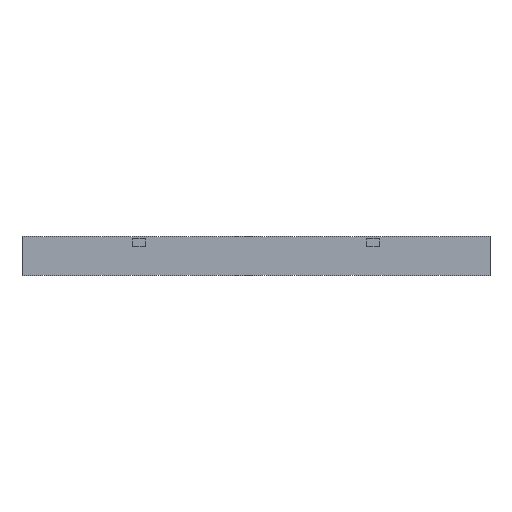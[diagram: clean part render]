
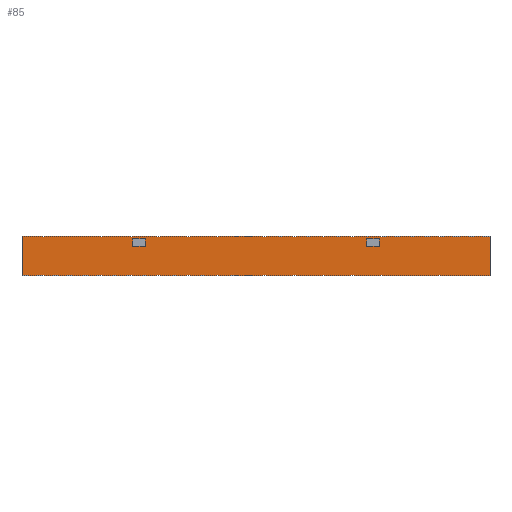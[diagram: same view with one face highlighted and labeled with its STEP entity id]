
A CAD part, left-side view. The second image highlights one B-rep face of the part: STEP entity #85.
In plain terms, the highlighted planar face has unit normal (-1, 0, 0).
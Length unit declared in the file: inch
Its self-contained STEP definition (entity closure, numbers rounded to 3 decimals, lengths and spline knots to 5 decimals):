
#16=FACE_BOUND('',#320,.T.);
#17=FACE_BOUND('',#321,.T.);
#85=ADVANCED_FACE('',(#201,#16,#17),#1921,.T.);
#201=FACE_OUTER_BOUND('',#319,.T.);
#319=EDGE_LOOP('',(#590,#591,#592,#593));
#320=EDGE_LOOP('',(#594,#595,#596,#597));
#321=EDGE_LOOP('',(#598,#599,#600,#601));
#590=ORIENTED_EDGE('',*,*,#1166,.T.);
#591=ORIENTED_EDGE('',*,*,#1167,.T.);
#592=ORIENTED_EDGE('',*,*,#1168,.T.);
#593=ORIENTED_EDGE('',*,*,#1169,.T.);
#594=ORIENTED_EDGE('',*,*,#1124,.F.);
#595=ORIENTED_EDGE('',*,*,#1146,.F.);
#596=ORIENTED_EDGE('',*,*,#1103,.F.);
#597=ORIENTED_EDGE('',*,*,#1078,.F.);
#598=ORIENTED_EDGE('',*,*,#1173,.T.);
#599=ORIENTED_EDGE('',*,*,#1170,.T.);
#600=ORIENTED_EDGE('',*,*,#1171,.T.);
#601=ORIENTED_EDGE('',*,*,#1172,.T.);
#1078=EDGE_CURVE('',#1702,#1703,#1390,.T.);
#1103=EDGE_CURVE('',#1703,#1720,#1415,.T.);
#1124=EDGE_CURVE('',#1734,#1702,#1436,.T.);
#1146=EDGE_CURVE('',#1720,#1734,#1458,.T.);
#1166=EDGE_CURVE('',#1754,#1755,#1478,.T.);
#1167=EDGE_CURVE('',#1755,#1756,#1479,.T.);
#1168=EDGE_CURVE('',#1756,#1757,#1480,.T.);
#1169=EDGE_CURVE('',#1757,#1754,#1481,.T.);
#1170=EDGE_CURVE('',#1758,#1759,#1482,.T.);
#1171=EDGE_CURVE('',#1759,#1760,#1483,.T.);
#1172=EDGE_CURVE('',#1760,#1761,#1484,.T.);
#1173=EDGE_CURVE('',#1761,#1758,#1485,.T.);
#1390=B_SPLINE_CURVE_WITH_KNOTS('',1,(#2707,#2708),.UNSPECIFIED.,.F.,.F.,
(2,2),(0.,1.25),.UNSPECIFIED.);
#1415=B_SPLINE_CURVE_WITH_KNOTS('',1,(#2757,#2758),.UNSPECIFIED.,.F.,.F.,
(2,2),(0.,0.75),.UNSPECIFIED.);
#1436=B_SPLINE_CURVE_WITH_KNOTS('',1,(#2799,#2800),.UNSPECIFIED.,.F.,.F.,
(2,2),(0.,0.75),.UNSPECIFIED.);
#1458=B_SPLINE_CURVE_WITH_KNOTS('',1,(#2843,#2844),.UNSPECIFIED.,.F.,.F.,
(2,2),(0.,1.25),.UNSPECIFIED.);
#1478=B_SPLINE_CURVE_WITH_KNOTS('',1,(#2883,#2884),.UNSPECIFIED.,.F.,.F.,
(2,2),(0.,48.),.UNSPECIFIED.);
#1479=B_SPLINE_CURVE_WITH_KNOTS('',1,(#2885,#2886),.UNSPECIFIED.,.F.,.F.,
(2,2),(0.,4.),.UNSPECIFIED.);
#1480=B_SPLINE_CURVE_WITH_KNOTS('',1,(#2887,#2888),.UNSPECIFIED.,.F.,.F.,
(2,2),(0.,48.),.UNSPECIFIED.);
#1481=B_SPLINE_CURVE_WITH_KNOTS('',1,(#2889,#2890),.UNSPECIFIED.,.F.,.F.,
(2,2),(0.,4.),.UNSPECIFIED.);
#1482=B_SPLINE_CURVE_WITH_KNOTS('',1,(#2891,#2892),.UNSPECIFIED.,.F.,.F.,
(2,2),(0.,1.25),.UNSPECIFIED.);
#1483=B_SPLINE_CURVE_WITH_KNOTS('',1,(#2893,#2894),.UNSPECIFIED.,.F.,.F.,
(2,2),(0.,0.75),.UNSPECIFIED.);
#1484=B_SPLINE_CURVE_WITH_KNOTS('',1,(#2895,#2896),.UNSPECIFIED.,.F.,.F.,
(2,2),(0.,1.25),.UNSPECIFIED.);
#1485=B_SPLINE_CURVE_WITH_KNOTS('',1,(#2897,#2898),.UNSPECIFIED.,.F.,.F.,
(2,2),(0.,0.75),.UNSPECIFIED.);
#1702=VERTEX_POINT('',#2471);
#1703=VERTEX_POINT('',#2472);
#1720=VERTEX_POINT('',#2489);
#1734=VERTEX_POINT('',#2503);
#1754=VERTEX_POINT('',#2523);
#1755=VERTEX_POINT('',#2524);
#1756=VERTEX_POINT('',#2525);
#1757=VERTEX_POINT('',#2526);
#1758=VERTEX_POINT('',#2527);
#1759=VERTEX_POINT('',#2528);
#1760=VERTEX_POINT('',#2529);
#1761=VERTEX_POINT('',#2530);
#1921=PLANE('',#2128);
#2128=AXIS2_PLACEMENT_3D('',#2366,#2247,$);
#2247=DIRECTION('',(-1.,0.,0.));
#2366=CARTESIAN_POINT('',(-20.25,28.80472,2.40472));
#2471=CARTESIAN_POINT('',(-20.25,11.375,1.75));
#2472=CARTESIAN_POINT('',(-20.25,12.625,1.75));
#2489=CARTESIAN_POINT('',(-20.25,12.625,1.));
#2503=CARTESIAN_POINT('',(-20.25,11.375,1.));
#2523=CARTESIAN_POINT('',(-20.25,24.,-2.));
#2524=CARTESIAN_POINT('',(-20.25,-24.,-2.));
#2525=CARTESIAN_POINT('',(-20.25,-24.,2.));
#2526=CARTESIAN_POINT('',(-20.25,24.,2.));
#2527=CARTESIAN_POINT('',(-20.25,-11.375,1.75));
#2528=CARTESIAN_POINT('',(-20.25,-12.625,1.75));
#2529=CARTESIAN_POINT('',(-20.25,-12.625,1.));
#2530=CARTESIAN_POINT('',(-20.25,-11.375,1.));
#2707=CARTESIAN_POINT('',(-20.25,11.375,1.75));
#2708=CARTESIAN_POINT('',(-20.25,12.625,1.75));
#2757=CARTESIAN_POINT('',(-20.25,12.625,1.75));
#2758=CARTESIAN_POINT('',(-20.25,12.625,1.));
#2799=CARTESIAN_POINT('',(-20.25,11.375,1.));
#2800=CARTESIAN_POINT('',(-20.25,11.375,1.75));
#2843=CARTESIAN_POINT('',(-20.25,12.625,1.));
#2844=CARTESIAN_POINT('',(-20.25,11.375,1.));
#2883=CARTESIAN_POINT('',(-20.25,24.,-2.));
#2884=CARTESIAN_POINT('',(-20.25,-24.,-2.));
#2885=CARTESIAN_POINT('',(-20.25,-24.,-2.));
#2886=CARTESIAN_POINT('',(-20.25,-24.,2.));
#2887=CARTESIAN_POINT('',(-20.25,-24.,2.));
#2888=CARTESIAN_POINT('',(-20.25,24.,2.));
#2889=CARTESIAN_POINT('',(-20.25,24.,2.));
#2890=CARTESIAN_POINT('',(-20.25,24.,-2.));
#2891=CARTESIAN_POINT('',(-20.25,-11.375,1.75));
#2892=CARTESIAN_POINT('',(-20.25,-12.625,1.75));
#2893=CARTESIAN_POINT('',(-20.25,-12.625,1.75));
#2894=CARTESIAN_POINT('',(-20.25,-12.625,1.));
#2895=CARTESIAN_POINT('',(-20.25,-12.625,1.));
#2896=CARTESIAN_POINT('',(-20.25,-11.375,1.));
#2897=CARTESIAN_POINT('',(-20.25,-11.375,1.));
#2898=CARTESIAN_POINT('',(-20.25,-11.375,1.75));
